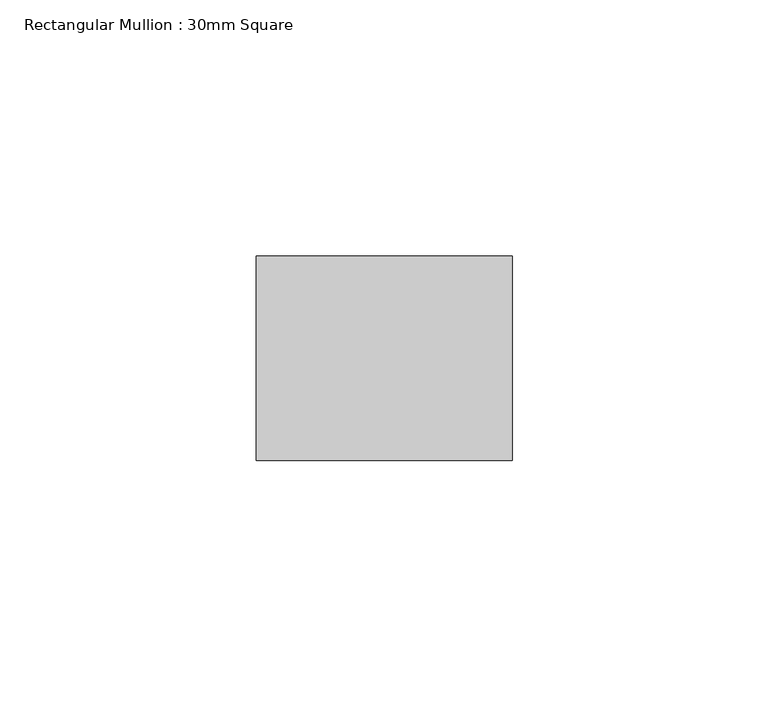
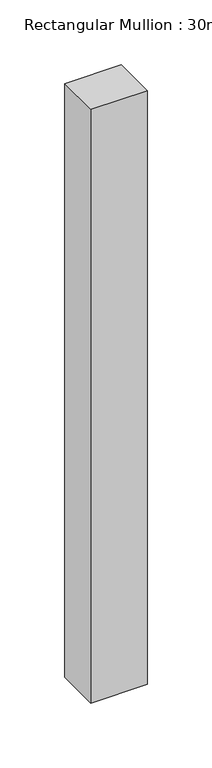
"""IFC4 building model written with IfcOpenShell, lengths in millimetres: member geometry, Rectangular Mullion : 30mm Square."""

from ifc_helpers import new_model, si_unit, frame, origin, place, context, project, spatial, polyline, outline, extrude, source, transform, mapped, element, save


def rectangular_mullion_30mm_square_19e9d722(model_context):
    return source(origin(), model_context, "Body", "SweptSolid", [
        extrude(outline(polyline([(0.0, 20.0), (0.0, -20.0), (-50.0, -20.0), (-50.0, 20.0), (0.0, 20.0)])), frame((0.0, 0.0, -558.4400063), z_axis=(0.0, 0.0, 1.0), x_axis=(1.0, 0.0, 0.0)), (0.0, 0.0, 1.0), 558.4400063),
    ])


if __name__ == "__main__":
    model = new_model("IFC4")
    model_context = context("Model", 3, world=origin())
    ifc_project = project(units=[si_unit("LENGTHUNIT", "METRE", prefix="MILLI")], contexts=[model_context])
    site = spatial("IfcSite", under=ifc_project)
    building = spatial("IfcBuilding", under=site)
    placement = place(None, origin())
    rectangular_mullion_30mm_square_shape = rectangular_mullion_30mm_square_19e9d722(model_context)
    element("IfcMember", 1, ObjectType="Rectangular Mullion : 30mm Square", at=placement, inside=building, context=model_context, shape_type="MappedRepresentation", body=[
        mapped(rectangular_mullion_30mm_square_shape, transform((0.0, 0.0, 0.0), x_axis=(1.0, 0.0, 0.0), y_axis=(0.0, 1.0, 0.0), z_axis=(0.0, 0.0, 1.0))),
    ])
    save(model, "model.ifc")
